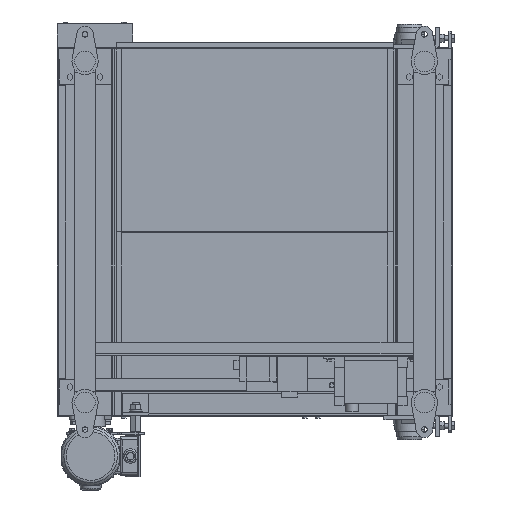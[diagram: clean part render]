
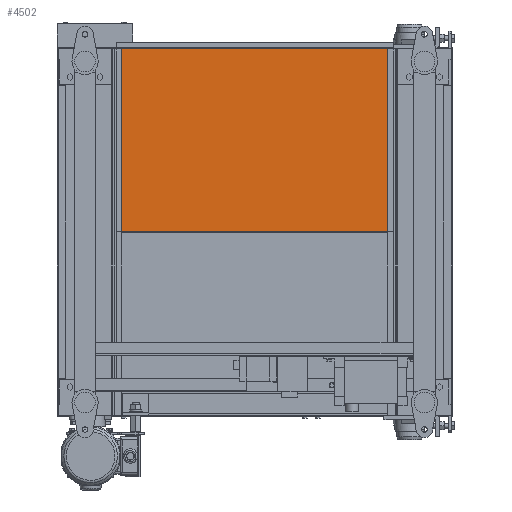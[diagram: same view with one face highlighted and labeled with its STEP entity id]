
A CAD part, front view. The second image highlights one B-rep face of the part: STEP entity #4502.
In plain terms, the highlighted planar face has unit normal (0, -1, 0).
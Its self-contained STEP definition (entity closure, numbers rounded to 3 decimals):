
#4502=ADVANCED_FACE('',(#18589),#18588,.F.);
#18588=PLANE('',#40021);
#18589=FACE_OUTER_BOUND('',#40022,.T.);
#40018=CARTESIAN_POINT('',(127.5,-165.,-10.));
#40019=DIRECTION('',(0.,1.,0.));
#40020=DIRECTION('',(0.,0.,1.));
#40021=AXIS2_PLACEMENT_3D('',#40018,#40019,#40020);
#40022=EDGE_LOOP('',(#55323,#55324,#55325,#55326));
#55323=ORIENTED_EDGE('',*,*,#66094,.F.);
#55324=ORIENTED_EDGE('',*,*,#66100,.F.);
#55325=ORIENTED_EDGE('',*,*,#66101,.F.);
#55326=ORIENTED_EDGE('',*,*,#66102,.F.);
#66094=EDGE_CURVE('',#91825,#91826,#91827,.T.);
#66100=EDGE_CURVE('',#91864,#91825,#91865,.T.);
#66101=EDGE_CURVE('',#91871,#91864,#91872,.T.);
#66102=EDGE_CURVE('',#91826,#91871,#91878,.T.);
#91825=VERTEX_POINT('',#129330);
#91826=VERTEX_POINT('',#129331);
#91827=LINE('',#129332,#129333);
#91864=VERTEX_POINT('',#129351);
#91865=LINE('',#129352,#129353);
#91871=VERTEX_POINT('',#129355);
#91872=LINE('',#129356,#129357);
#91878=LINE('',#129359,#129360);
#129330=CARTESIAN_POINT('',(137.5,-165.,0.));
#129331=CARTESIAN_POINT('',(137.5,-165.,428.2));
#129332=CARTESIAN_POINT('',(137.5,-165.,0.));
#129333=VECTOR('',#129334,428.2);
#129334=DIRECTION('',(0.,0.,1.));
#129351=CARTESIAN_POINT('',(782.5,-165.,0.));
#129352=CARTESIAN_POINT('',(782.5,-165.,0.));
#129353=VECTOR('',#129354,645.);
#129354=DIRECTION('',(-1.,0.,0.));
#129355=CARTESIAN_POINT('',(782.5,-165.,428.2));
#129356=CARTESIAN_POINT('',(782.5,-165.,428.2));
#129357=VECTOR('',#129358,428.2);
#129358=DIRECTION('',(0.,0.,-1.));
#129359=CARTESIAN_POINT('',(137.5,-165.,428.2));
#129360=VECTOR('',#129361,645.);
#129361=DIRECTION('',(1.,0.,0.));
